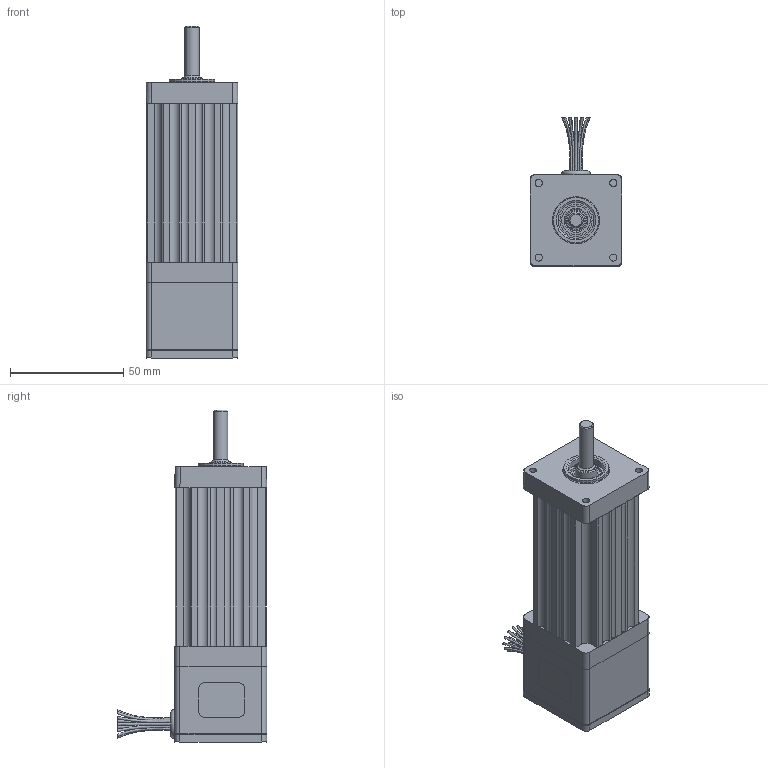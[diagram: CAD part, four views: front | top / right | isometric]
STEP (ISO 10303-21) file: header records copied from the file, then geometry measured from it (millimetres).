
FILE_DESCRIPTION((''),'2;1');
FILE_NAME('C:\CAD_work\Dummy_Modeling_Project_02-12-05\3D MODELS\SM162_FL.stp','2005-12-20T17:38:46',('jevans'),(''),'Autodesk Inventor 10','Autodesk Inventor 10','');
FILE_SCHEMA(('AUTOMOTIVE_DESIGN { 1 0 10303 214 1 1 1 1 }'));
Length unit declared in the file: inch
Products named in the file (1): SM16_FL
Bounding box: 40.67 x 66.04 x 146.81 mm (x, y, z)
Volume: 184610.9 mm3; surface area: 27268 mm2
Topology: 1 solids, 2 shells, 205 faces, 482 edges, 309 vertices
Faces by surface type: plane 112, cylinder 63, bspline 25, cone 3, torus 2
Full cylindrical faces by diameter (mm): 6.35 x2, 9.525 x1, 12.7 x2, 14.224 x1, 15.875 x1, 17.526 x1, 20.015 x1, 22.225 x1, 22.228 x1
Entity records: 8109 total; most frequent: CARTESIAN_POINT 3484, DIRECTION 946, ORIENTED_EDGE 900, EDGE_CURVE 450, AXIS2_PLACEMENT_3D 357, VERTEX_POINT 300, EDGE_LOOP 278, VECTOR 232
